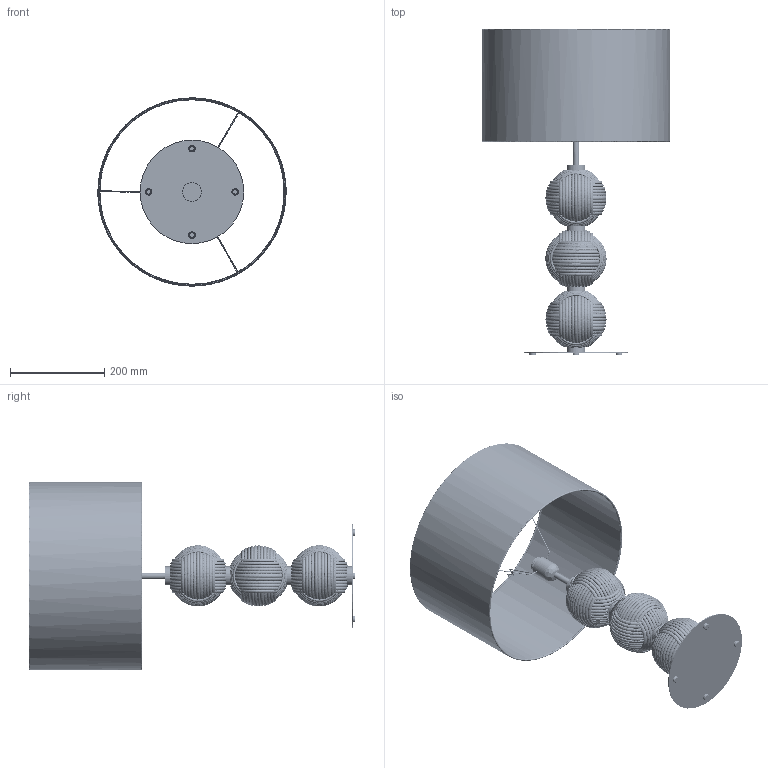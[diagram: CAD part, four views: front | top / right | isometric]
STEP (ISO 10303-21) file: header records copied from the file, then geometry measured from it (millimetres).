
FILE_DESCRIPTION (( 'STEP AP214' ), '1' );
FILE_NAME ('NAC150.STEP', '2026-07-03T16:00:14', ( '' ), ( '' ), 'SwSTEP 2.0', 'SolidWorks 2023', '' );
FILE_SCHEMA (( 'AUTOMOTIVE_DESIGN' ));
Length unit declared in the file: millimetre
Products named in the file (5): Shade; arandela fifa; base 22; Bola_3D; NAC150
Assembly tree (9 placements, depth 2):
  NAC150
    base 22
    arandela fifa  x4
    Bola_3D  x3
    Shade
Bounding box: 399.7 x 694 x 399.99 mm (x, y, z)
Volume: 3162018.8 mm3; surface area: 1563106.4 mm2
Topology: 140 solids, 163 shells, 833 faces, 1825 edges, 1140 vertices
Faces by surface type: bspline 607, cylinder 198, plane 20, torus 8
Entity records: 68371 total; most frequent: CARTESIAN_POINT 61715, ORIENTED_EDGE 1800, EDGE_CURVE 1000, VERTEX_POINT 661, B_SPLINE_CURVE_WITH_KNOTS 531, EDGE_LOOP 408, ADVANCED_FACE 399, FACE_OUTER_BOUND 399
